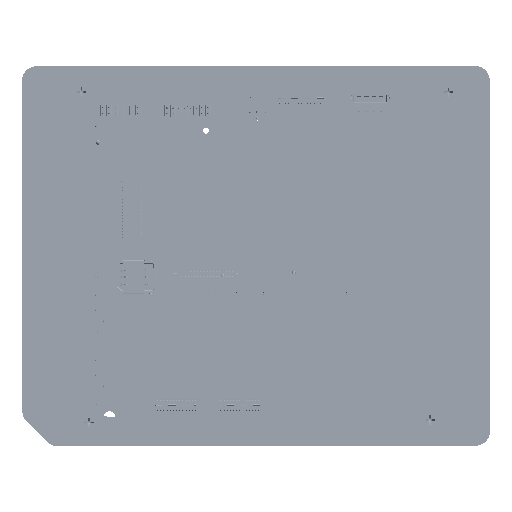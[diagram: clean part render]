
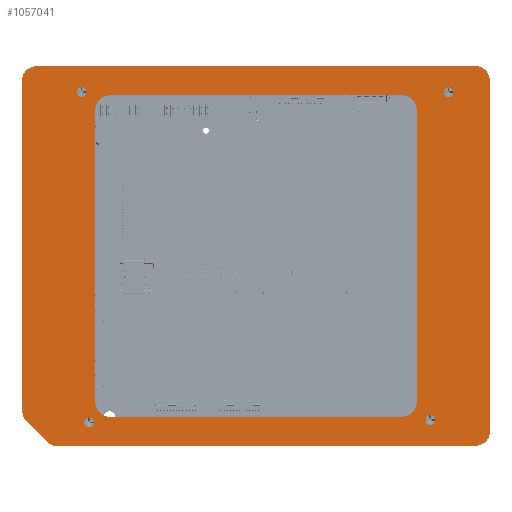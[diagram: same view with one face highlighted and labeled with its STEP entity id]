
A CAD part, front view. The second image highlights one B-rep face of the part: STEP entity #1057041.
In plain terms, the highlighted planar face has unit normal (0, -1, 0).
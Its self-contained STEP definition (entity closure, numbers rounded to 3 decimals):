
#1056288=CARTESIAN_POINT('',(-75.,0.,60.));
#1056289=DIRECTION('',(0.,-1.,0.));
#1056290=DIRECTION('',(0.,0.,1.));
#1056291=AXIS2_PLACEMENT_3D('',#1056288,#1056289,#1056290);
#1056296=DIRECTION('',(1.,0.,0.));
#1056297=VECTOR('',#1056296,150.);
#1056298=CARTESIAN_POINT('',(-75.,0.,65.));
#1056299=LINE('',#1056298,#1056297);
#1056303=CARTESIAN_POINT('',(75.,0.,60.));
#1056304=DIRECTION('',(0.,-1.,0.));
#1056305=DIRECTION('',(1.,0.,0.));
#1056306=AXIS2_PLACEMENT_3D('',#1056303,#1056304,#1056305);
#1056311=DIRECTION('',(0.,0.,-1.));
#1056312=VECTOR('',#1056311,120.);
#1056313=CARTESIAN_POINT('',(80.,0.,60.));
#1056314=LINE('',#1056313,#1056312);
#1056318=CARTESIAN_POINT('',(75.,0.,-60.));
#1056319=DIRECTION('',(0.,-1.,0.));
#1056320=DIRECTION('',(0.,0.,-1.));
#1056321=AXIS2_PLACEMENT_3D('',#1056318,#1056319,#1056320);
#1056326=DIRECTION('',(-1.,0.,0.));
#1056327=VECTOR('',#1056326,142.929);
#1056328=CARTESIAN_POINT('',(75.,0.,-65.));
#1056329=LINE('',#1056328,#1056327);
#1056333=CARTESIAN_POINT('',(-67.929,0.,-60.));
#1056334=DIRECTION('',(0.,-1.,0.));
#1056335=DIRECTION('',(-0.707,0.,-0.707));
#1056336=AXIS2_PLACEMENT_3D('',#1056333,#1056334,#1056335);
#1056341=DIRECTION('',(0.707,0.,-0.707));
#1056342=VECTOR('',#1056341,10.);
#1056343=CARTESIAN_POINT('',(-78.536,0.,-56.464));
#1056344=LINE('',#1056343,#1056342);
#1056348=CARTESIAN_POINT('',(-75.,0.,-52.929));
#1056349=DIRECTION('',(0.,-1.,0.));
#1056350=DIRECTION('',(-1.,0.,0.));
#1056351=AXIS2_PLACEMENT_3D('',#1056348,#1056349,#1056350);
#1056356=DIRECTION('',(0.,0.,1.));
#1056357=VECTOR('',#1056356,112.929);
#1056358=CARTESIAN_POINT('',(-80.,0.,-52.929));
#1056359=LINE('',#1056358,#1056357);
#1056363=CARTESIAN_POINT('',(-59.586,0.,56.182));
#1056364=DIRECTION('',(0.,1.,0.));
#1056365=DIRECTION('',(1.,0.,0.));
#1056366=AXIS2_PLACEMENT_3D('',#1056363,#1056364,#1056365);
#1056371=CARTESIAN_POINT('',(-59.586,0.,56.182));
#1056372=DIRECTION('',(0.,1.,0.));
#1056373=DIRECTION('',(-1.,0.,0.));
#1056374=AXIS2_PLACEMENT_3D('',#1056371,#1056372,#1056373);
#1056379=CARTESIAN_POINT('',(65.89,0.,55.951));
#1056380=DIRECTION('',(0.,1.,0.));
#1056381=DIRECTION('',(1.,0.,0.));
#1056382=AXIS2_PLACEMENT_3D('',#1056379,#1056380,#1056381);
#1056387=CARTESIAN_POINT('',(65.89,0.,55.951));
#1056388=DIRECTION('',(0.,1.,0.));
#1056389=DIRECTION('',(-1.,0.,0.));
#1056390=AXIS2_PLACEMENT_3D('',#1056387,#1056388,#1056389);
#1056395=CARTESIAN_POINT('',(59.578,0.,-56.172));
#1056396=DIRECTION('',(0.,1.,0.));
#1056397=DIRECTION('',(1.,0.,0.));
#1056398=AXIS2_PLACEMENT_3D('',#1056395,#1056396,#1056397);
#1056403=CARTESIAN_POINT('',(59.578,0.,-56.172));
#1056404=DIRECTION('',(0.,1.,0.));
#1056405=DIRECTION('',(-1.,0.,0.));
#1056406=AXIS2_PLACEMENT_3D('',#1056403,#1056404,#1056405);
#1056411=CARTESIAN_POINT('',(-57.139,0.,-56.85));
#1056412=DIRECTION('',(0.,1.,0.));
#1056413=DIRECTION('',(1.,0.,0.));
#1056414=AXIS2_PLACEMENT_3D('',#1056411,#1056412,#1056413);
#1056419=CARTESIAN_POINT('',(-57.139,0.,-56.85));
#1056420=DIRECTION('',(0.,1.,0.));
#1056421=DIRECTION('',(-1.,0.,0.));
#1056422=AXIS2_PLACEMENT_3D('',#1056419,#1056420,#1056421);
#1056427=DIRECTION('',(0.,0.,-1.));
#1056428=VECTOR('',#1056427,100.);
#1056429=CARTESIAN_POINT('',(-55.,0.,50.));
#1056430=LINE('',#1056429,#1056428);
#1056434=DIRECTION('',(1.,0.,0.));
#1056435=VECTOR('',#1056434,100.);
#1056436=CARTESIAN_POINT('',(-50.,0.,-55.));
#1056437=LINE('',#1056436,#1056435);
#1056441=DIRECTION('',(0.,0.,1.));
#1056442=VECTOR('',#1056441,100.);
#1056443=CARTESIAN_POINT('',(55.,0.,-50.));
#1056444=LINE('',#1056443,#1056442);
#1056448=DIRECTION('',(-1.,0.,0.));
#1056449=VECTOR('',#1056448,100.);
#1056450=CARTESIAN_POINT('',(50.,0.,55.));
#1056451=LINE('',#1056450,#1056449);
#1056762=CARTESIAN_POINT('',(-50.,0.,-50.));
#1056763=DIRECTION('',(0.,1.,0.));
#1056764=DIRECTION('',(0.,0.,-1.));
#1056765=AXIS2_PLACEMENT_3D('',#1056762,#1056763,#1056764);
#1056792=CARTESIAN_POINT('',(-50.,0.,50.));
#1056793=DIRECTION('',(0.,1.,0.));
#1056794=DIRECTION('',(-1.,0.,0.));
#1056795=AXIS2_PLACEMENT_3D('',#1056792,#1056793,#1056794);
#1056822=CARTESIAN_POINT('',(50.,0.,50.));
#1056823=DIRECTION('',(0.,1.,0.));
#1056824=DIRECTION('',(0.,0.,1.));
#1056825=AXIS2_PLACEMENT_3D('',#1056822,#1056823,#1056824);
#1056852=CARTESIAN_POINT('',(50.,0.,-50.));
#1056853=DIRECTION('',(0.,1.,0.));
#1056854=DIRECTION('',(1.,0.,0.));
#1056855=AXIS2_PLACEMENT_3D('',#1056852,#1056853,#1056854);
#1056868=CARTESIAN_POINT('',(-57.936,0.,56.182));
#1056869=CARTESIAN_POINT('',(-61.236,0.,56.182));
#1056870=VERTEX_POINT('',#1056868);
#1056871=VERTEX_POINT('',#1056869);
#1056872=CARTESIAN_POINT('',(67.54,0.,55.951));
#1056873=CARTESIAN_POINT('',(64.24,0.,55.951));
#1056874=VERTEX_POINT('',#1056872);
#1056875=VERTEX_POINT('',#1056873);
#1056876=CARTESIAN_POINT('',(61.228,0.,-56.172));
#1056877=CARTESIAN_POINT('',(57.928,0.,-56.172));
#1056878=VERTEX_POINT('',#1056876);
#1056879=VERTEX_POINT('',#1056877);
#1056880=CARTESIAN_POINT('',(-55.489,0.,-56.85));
#1056881=CARTESIAN_POINT('',(-58.789,0.,-56.85));
#1056882=VERTEX_POINT('',#1056880);
#1056883=VERTEX_POINT('',#1056881);
#1056900=CARTESIAN_POINT('',(-75.,0.,65.));
#1056901=CARTESIAN_POINT('',(-80.,0.,60.));
#1056902=VERTEX_POINT('',#1056900);
#1056903=VERTEX_POINT('',#1056901);
#1056908=CARTESIAN_POINT('',(80.,0.,60.));
#1056909=CARTESIAN_POINT('',(75.,0.,65.));
#1056910=VERTEX_POINT('',#1056908);
#1056911=VERTEX_POINT('',#1056909);
#1056916=CARTESIAN_POINT('',(75.,0.,-65.));
#1056917=CARTESIAN_POINT('',(80.,0.,-60.));
#1056918=VERTEX_POINT('',#1056916);
#1056919=VERTEX_POINT('',#1056917);
#1056924=CARTESIAN_POINT('',(-80.,0.,-52.929));
#1056925=CARTESIAN_POINT('',(-78.536,0.,-56.464));
#1056926=VERTEX_POINT('',#1056924);
#1056927=VERTEX_POINT('',#1056925);
#1056936=CARTESIAN_POINT('',(-71.464,0.,-63.536));
#1056937=VERTEX_POINT('',#1056936);
#1056938=CARTESIAN_POINT('',(-67.929,0.,-65.));
#1056939=VERTEX_POINT('',#1056938);
#1056940=CARTESIAN_POINT('',(-55.,0.,50.));
#1056942=VERTEX_POINT('',#1056940);
#1056944=CARTESIAN_POINT('',(-50.,0.,55.));
#1056946=VERTEX_POINT('',#1056944);
#1056948=CARTESIAN_POINT('',(-50.,0.,-55.));
#1056950=VERTEX_POINT('',#1056948);
#1056952=CARTESIAN_POINT('',(-55.,0.,-50.));
#1056954=VERTEX_POINT('',#1056952);
#1056956=CARTESIAN_POINT('',(55.,0.,-50.));
#1056958=VERTEX_POINT('',#1056956);
#1056960=CARTESIAN_POINT('',(50.,0.,-55.));
#1056962=VERTEX_POINT('',#1056960);
#1056964=CARTESIAN_POINT('',(50.,0.,55.));
#1056966=VERTEX_POINT('',#1056964);
#1056968=CARTESIAN_POINT('',(55.,0.,50.));
#1056970=VERTEX_POINT('',#1056968);
#1056972=CARTESIAN_POINT('',(0.,0.,0.));
#1056973=DIRECTION('',(0.,1.,0.));
#1056974=DIRECTION('',(1.,0.,0.));
#1056975=AXIS2_PLACEMENT_3D('',#1056972,#1056973,#1056974);
#1056976=PLANE('',#1056975);
#1056978=ORIENTED_EDGE('',*,*,#1056977,.F.);
#1056980=ORIENTED_EDGE('',*,*,#1056979,.T.);
#1056982=ORIENTED_EDGE('',*,*,#1056981,.F.);
#1056984=ORIENTED_EDGE('',*,*,#1056983,.T.);
#1056986=ORIENTED_EDGE('',*,*,#1056985,.F.);
#1056988=ORIENTED_EDGE('',*,*,#1056987,.T.);
#1056990=ORIENTED_EDGE('',*,*,#1056989,.F.);
#1056992=ORIENTED_EDGE('',*,*,#1056991,.F.);
#1056994=ORIENTED_EDGE('',*,*,#1056993,.F.);
#1056996=ORIENTED_EDGE('',*,*,#1056995,.T.);
#1056997=EDGE_LOOP('',(#1056978,#1056980,#1056982,#1056984,#1056986,#1056988,
#1056990,#1056992,#1056994,#1056996));
#1056998=FACE_OUTER_BOUND('',#1056997,.F.);
#1057000=ORIENTED_EDGE('',*,*,#1056999,.F.);
#1057002=ORIENTED_EDGE('',*,*,#1057001,.F.);
#1057003=EDGE_LOOP('',(#1057000,#1057002));
#1057004=FACE_BOUND('',#1057003,.F.);
#1057006=ORIENTED_EDGE('',*,*,#1057005,.F.);
#1057008=ORIENTED_EDGE('',*,*,#1057007,.F.);
#1057009=EDGE_LOOP('',(#1057006,#1057008));
#1057010=FACE_BOUND('',#1057009,.F.);
#1057012=ORIENTED_EDGE('',*,*,#1057011,.F.);
#1057014=ORIENTED_EDGE('',*,*,#1057013,.F.);
#1057015=EDGE_LOOP('',(#1057012,#1057014));
#1057016=FACE_BOUND('',#1057015,.F.);
#1057018=ORIENTED_EDGE('',*,*,#1057017,.F.);
#1057020=ORIENTED_EDGE('',*,*,#1057019,.F.);
#1057021=EDGE_LOOP('',(#1057018,#1057020));
#1057022=FACE_BOUND('',#1057021,.F.);
#1057024=ORIENTED_EDGE('',*,*,#1057023,.T.);
#1057026=ORIENTED_EDGE('',*,*,#1057025,.F.);
#1057028=ORIENTED_EDGE('',*,*,#1057027,.T.);
#1057030=ORIENTED_EDGE('',*,*,#1057029,.F.);
#1057032=ORIENTED_EDGE('',*,*,#1057031,.T.);
#1057034=ORIENTED_EDGE('',*,*,#1057033,.F.);
#1057036=ORIENTED_EDGE('',*,*,#1057035,.T.);
#1057038=ORIENTED_EDGE('',*,*,#1057037,.F.);
#1057039=EDGE_LOOP('',(#1057024,#1057026,#1057028,#1057030,#1057032,#1057034,
#1057036,#1057038));
#1057040=FACE_BOUND('',#1057039,.F.);
#1056292=CIRCLE('',#1056291,5.);
#1056307=CIRCLE('',#1056306,5.);
#1056322=CIRCLE('',#1056321,5.);
#1056337=CIRCLE('',#1056336,5.);
#1056352=CIRCLE('',#1056351,5.);
#1056367=CIRCLE('',#1056366,1.65);
#1056375=CIRCLE('',#1056374,1.65);
#1056383=CIRCLE('',#1056382,1.65);
#1056391=CIRCLE('',#1056390,1.65);
#1056399=CIRCLE('',#1056398,1.65);
#1056407=CIRCLE('',#1056406,1.65);
#1056415=CIRCLE('',#1056414,1.65);
#1056423=CIRCLE('',#1056422,1.65);
#1056766=CIRCLE('',#1056765,5.);
#1056796=CIRCLE('',#1056795,5.);
#1056826=CIRCLE('',#1056825,5.);
#1056856=CIRCLE('',#1056855,5.);
#1056977=EDGE_CURVE('',#1056902,#1056903,#1056292,.T.);
#1056979=EDGE_CURVE('',#1056902,#1056911,#1056299,.T.);
#1056981=EDGE_CURVE('',#1056910,#1056911,#1056307,.T.);
#1056983=EDGE_CURVE('',#1056910,#1056919,#1056314,.T.);
#1056985=EDGE_CURVE('',#1056918,#1056919,#1056322,.T.);
#1056987=EDGE_CURVE('',#1056918,#1056939,#1056329,.T.);
#1056989=EDGE_CURVE('',#1056937,#1056939,#1056337,.T.);
#1056991=EDGE_CURVE('',#1056927,#1056937,#1056344,.T.);
#1056993=EDGE_CURVE('',#1056926,#1056927,#1056352,.T.);
#1056995=EDGE_CURVE('',#1056926,#1056903,#1056359,.T.);
#1056999=EDGE_CURVE('',#1056870,#1056871,#1056367,.T.);
#1057001=EDGE_CURVE('',#1056871,#1056870,#1056375,.T.);
#1057005=EDGE_CURVE('',#1056874,#1056875,#1056383,.T.);
#1057007=EDGE_CURVE('',#1056875,#1056874,#1056391,.T.);
#1057011=EDGE_CURVE('',#1056878,#1056879,#1056399,.T.);
#1057013=EDGE_CURVE('',#1056879,#1056878,#1056407,.T.);
#1057017=EDGE_CURVE('',#1056882,#1056883,#1056415,.T.);
#1057019=EDGE_CURVE('',#1056883,#1056882,#1056423,.T.);
#1057023=EDGE_CURVE('',#1056942,#1056954,#1056430,.T.);
#1057025=EDGE_CURVE('',#1056950,#1056954,#1056766,.T.);
#1057027=EDGE_CURVE('',#1056950,#1056962,#1056437,.T.);
#1057029=EDGE_CURVE('',#1056958,#1056962,#1056856,.T.);
#1057031=EDGE_CURVE('',#1056958,#1056970,#1056444,.T.);
#1057033=EDGE_CURVE('',#1056966,#1056970,#1056826,.T.);
#1057035=EDGE_CURVE('',#1056966,#1056946,#1056451,.T.);
#1057037=EDGE_CURVE('',#1056942,#1056946,#1056796,.T.);
#1057041=ADVANCED_FACE('',(#1056998,#1057004,#1057010,#1057016,#1057022,
#1057040),#1056976,.F.);
